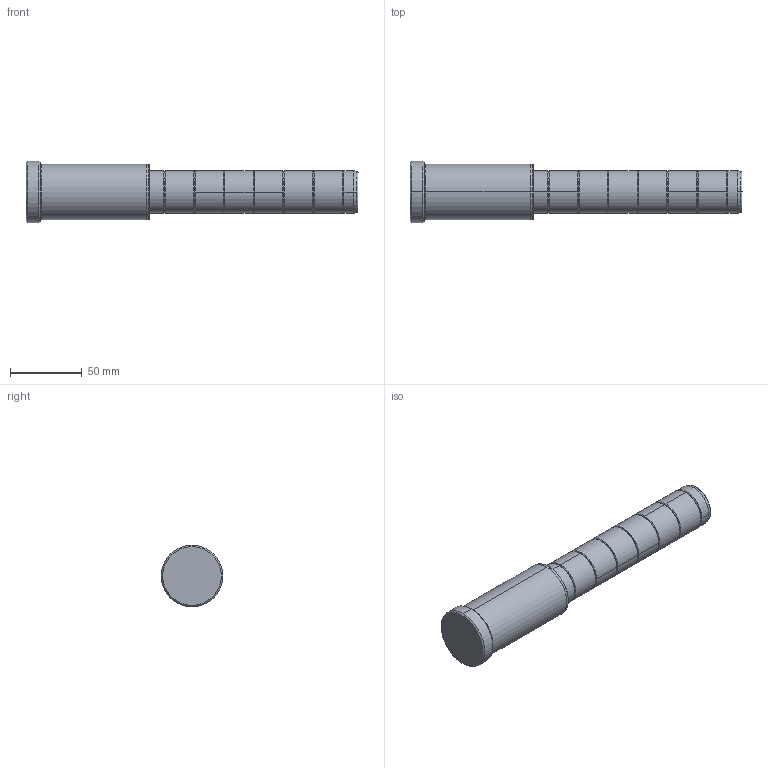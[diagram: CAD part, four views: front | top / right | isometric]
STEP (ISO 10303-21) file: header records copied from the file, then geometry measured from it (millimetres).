
FILE_DESCRIPTION (( 'STEP AP214' ), '1' );
FILE_NAME ('D02_30x86x146.step', '2011-12-26T20:41:41', ( 'Dell' ), ( '' ), 'SwSTEP 2.0', 'SolidWorks 2010', '' );
FILE_SCHEMA (( 'AUTOMOTIVE_DESIGN' ));
Length unit declared in the file: millimetre
Products named in the file (1): D02_30x86x146
Bounding box: 232 x 43 x 43 mm (x, y, z)
Volume: 208086.7 mm3; surface area: 27379.5 mm2
Topology: 1 solids, 1 shells, 72 faces, 159 edges, 93 vertices
Faces by surface type: bspline 32, cylinder 24, cone 10, plane 6
Entity records: 2367 total; most frequent: CARTESIAN_POINT 916, ORIENTED_EDGE 318, DIRECTION 293, EDGE_CURVE 159, AXIS2_PLACEMENT_3D 130, VERTEX_POINT 93, CIRCLE 89, EDGE_LOOP 76
